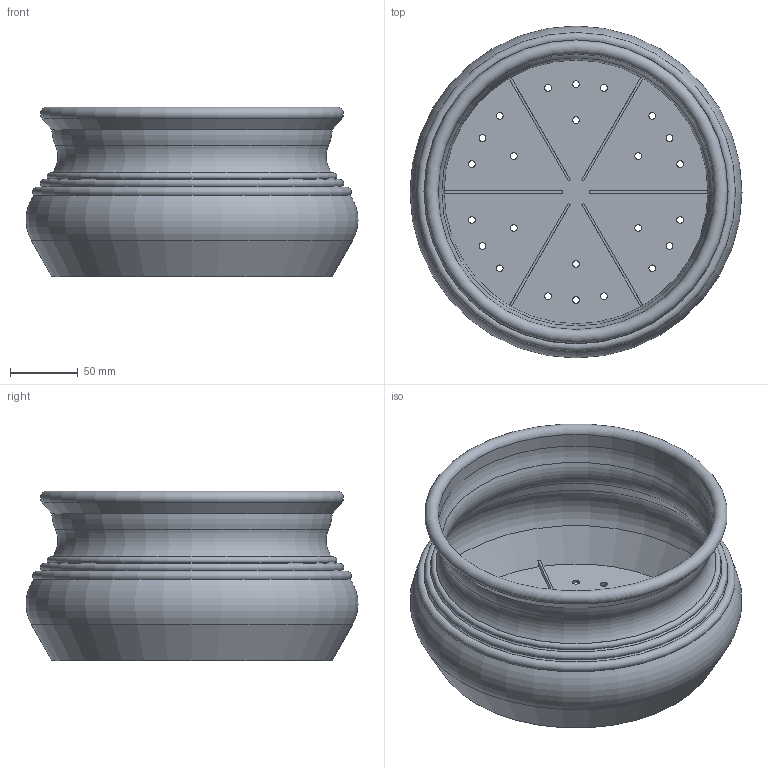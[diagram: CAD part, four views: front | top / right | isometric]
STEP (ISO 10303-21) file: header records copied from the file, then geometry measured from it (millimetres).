
FILE_DESCRIPTION(/* description */ (''),/* implementation_level */ '2;1');
FILE_NAME(/* name */ 'LR2406-S17-H125-D250_step.step',/* time_stamp */ '2024-02-01T11:03:03+01:00',/* author */ (''),/* organization */ (''),/* preprocessor_version */ 'ST-DEVELOPER v20',/* originating_system */ 'Autodesk Translation Framework v12.20.1.177',/* authorisation */ '');
FILE_SCHEMA (('AUTOMOTIVE_DESIGN { 1 0 10303 214 3 1 1 }'));
Length unit declared in the file: millimetre
Products named in the file (1): LR2406-S17-H125-D250
Bounding box: 244.71 x 244.71 x 125 mm (x, y, z)
Volume: 308093.5 mm3; surface area: 269338.3 mm2
Topology: 1 solids, 1 shells, 68 faces, 181 edges, 115 vertices
Faces by surface type: cylinder 31, plane 20, torus 10, cone 7
Full cylindrical faces by diameter (mm): 5 x24, 203.36 x1
Entity records: 2286 total; most frequent: DIRECTION 420, CARTESIAN_POINT 365, ORIENTED_EDGE 362, EDGE_CURVE 181, AXIS2_PLACEMENT_3D 170, EDGE_LOOP 116, VERTEX_POINT 115, CIRCLE 101
